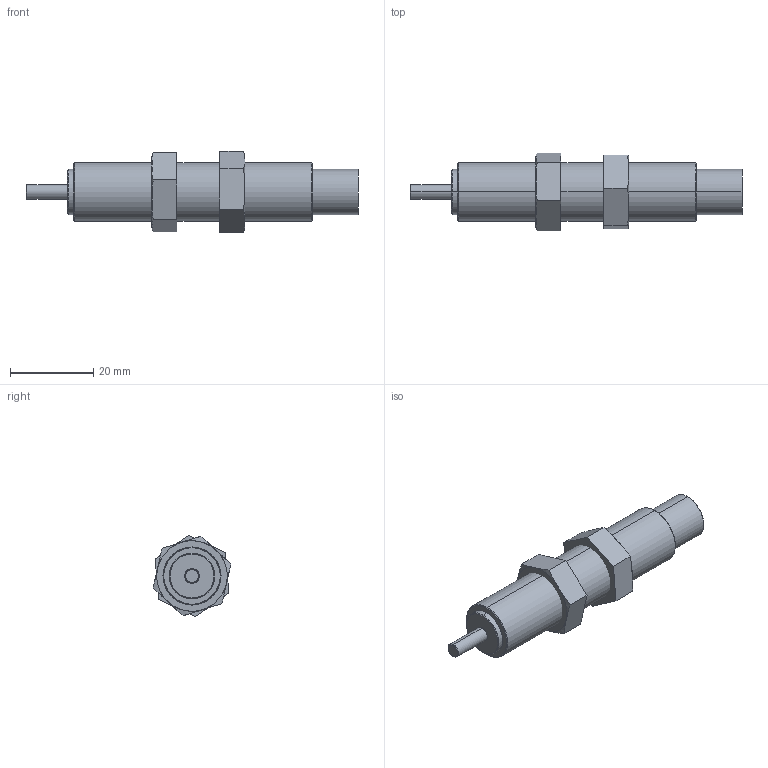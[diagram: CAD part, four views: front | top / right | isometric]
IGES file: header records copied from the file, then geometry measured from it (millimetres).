
Start section: SolidWorks IGES file using analytic representation for surfaces
Global section: file name: C:\Users\Sam Lin\Desktop\48\FSA-1410BB(CC)(CD).IGS; native system: SolidWorks 2013; preprocessor: SolidWorks 2013; author: Sam Lin; date: 160317.153225; units: metre
Bounding box: 80 x 18.75 x 19.55 mm (x, y, z)
Surface area: 5042.7 mm2 (no closed solid volume)
Topology: 0 solids, 0 shells, 53 faces, 788 edges, 788 vertices
Faces by surface type: bspline 33, revolution 20
